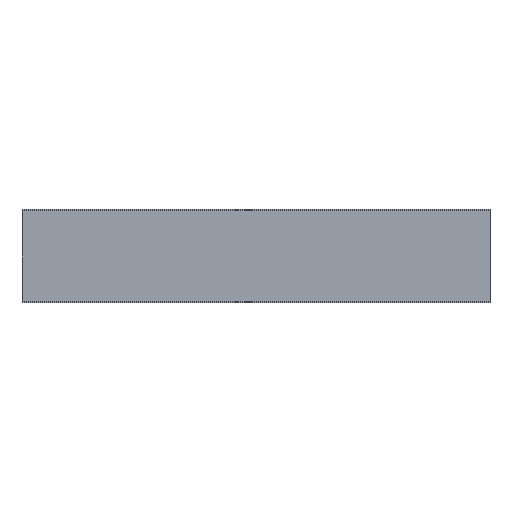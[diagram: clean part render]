
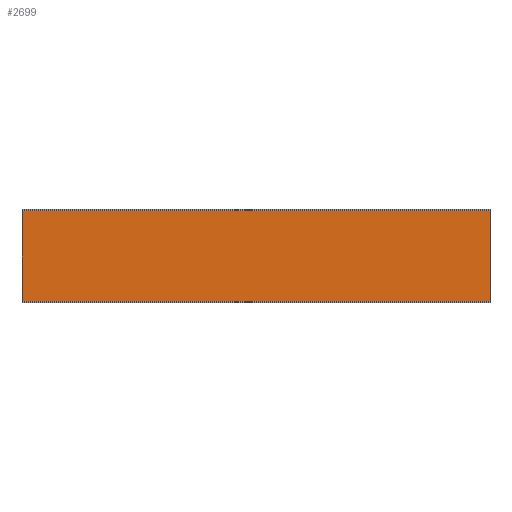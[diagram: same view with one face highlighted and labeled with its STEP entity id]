
A CAD part, top view. The second image highlights one B-rep face of the part: STEP entity #2699.
In plain terms, the highlighted planar face has unit normal (0, 0, 1).
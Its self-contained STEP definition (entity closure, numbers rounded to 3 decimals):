
#265 = VERTEX_POINT ( 'NONE', #3994 ) ;
#300 = EDGE_CURVE ( 'NONE', #265, #2985, #642, .T. ) ;
#374 = VECTOR ( 'NONE', #4881, 1000. ) ;
#414 = EDGE_CURVE ( 'NONE', #2985, #4427, #2279, .T. ) ;
#578 = ORIENTED_EDGE ( 'NONE', *, *, #300, .T. ) ;
#642 = LINE ( 'NONE', #3477, #374 ) ;
#650 = CARTESIAN_POINT ( 'NONE',  ( 0., 96.5, 42. ) ) ;
#1302 = CARTESIAN_POINT ( 'NONE',  ( 1000., -96.646, 42. ) ) ;
#1347 = VECTOR ( 'NONE', #2859, 1000. ) ;
#1728 = EDGE_LOOP ( 'NONE', ( #4780, #2912, #5119, #578 ) ) ;
#1928 = DIRECTION ( 'NONE',  ( 0., 1., 0. ) ) ;
#2279 = LINE ( 'NONE', #650, #2685 ) ;
#2335 = CARTESIAN_POINT ( 'NONE',  ( 1000., -96.646, 42. ) ) ;
#2634 = VECTOR ( 'NONE', #5439, 1000. ) ;
#2685 = VECTOR ( 'NONE', #4493, 1000. ) ;
#2699 = ADVANCED_FACE ( 'NONE', ( #2999 ), #2720, .F. ) ;
#2720 = PLANE ( 'NONE',  #4641 ) ;
#2790 = EDGE_CURVE ( 'NONE', #265, #4502, #4602, .T. ) ;
#2859 = DIRECTION ( 'NONE',  ( 0., -1., 0. ) ) ;
#2912 = ORIENTED_EDGE ( 'NONE', *, *, #5507, .F. ) ;
#2985 = VERTEX_POINT ( 'NONE', #5208 ) ;
#2999 = FACE_OUTER_BOUND ( 'NONE', #1728, .T. ) ;
#3271 = LINE ( 'NONE', #2335, #2634 ) ;
#3477 = CARTESIAN_POINT ( 'NONE',  ( 1000., 96.5, 42. ) ) ;
#3994 = CARTESIAN_POINT ( 'NONE',  ( 1000., 96.5, 42. ) ) ;
#4148 = CARTESIAN_POINT ( 'NONE',  ( 1000., 96.5, 42. ) ) ;
#4427 = VERTEX_POINT ( 'NONE', #5696 ) ;
#4493 = DIRECTION ( 'NONE',  ( 0., -1., 0. ) ) ;
#4502 = VERTEX_POINT ( 'NONE', #1302 ) ;
#4593 = DIRECTION ( 'NONE',  ( 0., 0., -1. ) ) ;
#4602 = LINE ( 'NONE', #4693, #1347 ) ;
#4641 = AXIS2_PLACEMENT_3D ( 'NONE', #4148, #4593, #1928 ) ;
#4693 = CARTESIAN_POINT ( 'NONE',  ( 1000., 96.5, 42. ) ) ;
#4780 = ORIENTED_EDGE ( 'NONE', *, *, #414, .T. ) ;
#4881 = DIRECTION ( 'NONE',  ( -1., 0., 0. ) ) ;
#5119 = ORIENTED_EDGE ( 'NONE', *, *, #2790, .F. ) ;
#5208 = CARTESIAN_POINT ( 'NONE',  ( 0., 96.5, 42. ) ) ;
#5439 = DIRECTION ( 'NONE',  ( -1., 0., 0. ) ) ;
#5507 = EDGE_CURVE ( 'NONE', #4502, #4427, #3271, .T. ) ;
#5696 = CARTESIAN_POINT ( 'NONE',  ( 0., -96.646, 42. ) ) ;
